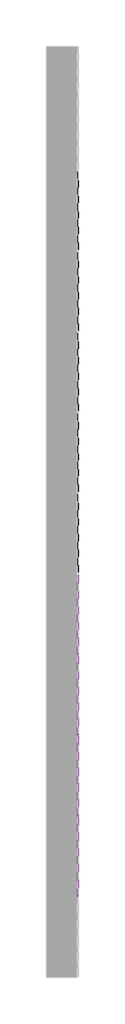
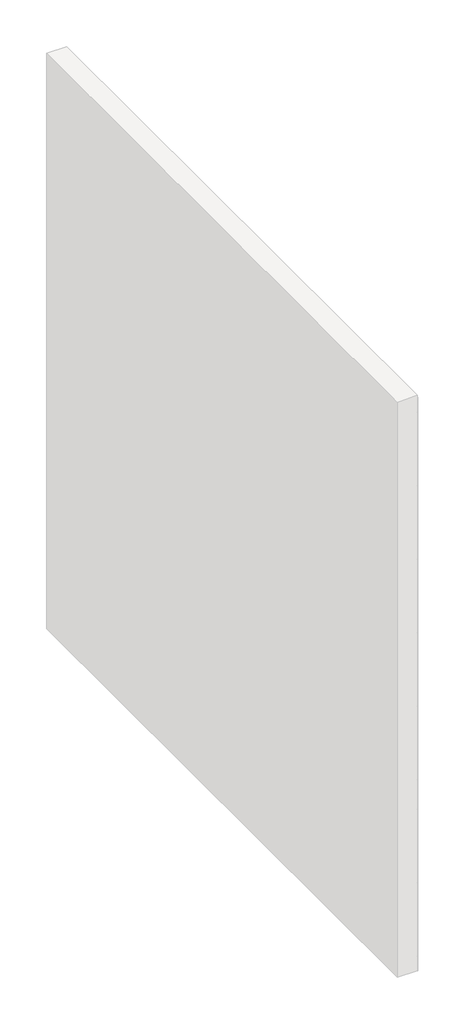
# One storey, part 40 of 45: 147 proxies.
"""IFC4 building model written with IfcOpenShell, lengths in millimetres."""

from ifc_helpers import new_model, si_unit, origin, place, context, project, spatial, transform, mapped, element, save
from components import generic_models_ab0f2c30

model = new_model("IFC4")

# Units and contexts
model_context = context("Model", 3, world=origin())
ifc_project = project(units=[si_unit("LENGTHUNIT", "METRE", prefix="MILLI")], contexts=[model_context])

# Site, building, storey
site = spatial("IfcSite", under=ifc_project)
building = spatial("IfcBuilding", under=site)
storey = spatial("IfcBuildingStorey", under=building, Name="PORTOBELLO - SHOWROOM", Elevation=0.0)

# Proxies
placement = place(None, origin())
generic_models_shape = generic_models_ab0f2c30(model_context)
element("IfcBuildingElementProxy", 1, Name="PBSHOP - HORIZONTES ZANZIBAR 6,5X23 : ZANZIBAR ARQUIPELAGO", ObjectType="PBSHOP - HORIZONTES ZANZIBAR 6,5X23 : ZANZIBAR ARQUIPELAGO", at=placement, inside=storey, context=model_context, shape_type="MappedRepresentation", body=[
    mapped(generic_models_shape, transform((66511.8826867, 21050.0864672, 34.5), x_axis=(0.0, 0.0, 1.0), y_axis=(0.0, -1.0, 0.0), z_axis=(1.0, 0.0, 0.0))),
])
element("IfcBuildingElementProxy", 2, Name="PBSHOP - HORIZONTES ZANZIBAR 6,5X23 : ZANZIBAR ARQUIPELAGO", ObjectType="PBSHOP - HORIZONTES ZANZIBAR 6,5X23 : ZANZIBAR ARQUIPELAGO", at=placement, inside=storey, context=model_context, shape_type="MappedRepresentation", body=[
    mapped(generic_models_shape, transform((66511.8826867, 21284.0864672, 34.5), x_axis=(0.0, 0.0, 1.0), y_axis=(0.0, -1.0, 0.0), z_axis=(1.0, 0.0, 0.0))),
])
element("IfcBuildingElementProxy", 3, Name="PBSHOP - HORIZONTES ZANZIBAR 6,5X23 : ZANZIBAR ARQUIPELAGO", ObjectType="PBSHOP - HORIZONTES ZANZIBAR 6,5X23 : ZANZIBAR ARQUIPELAGO", at=placement, inside=storey, context=model_context, shape_type="MappedRepresentation", body=[
    mapped(generic_models_shape, transform((66511.8826867, 21518.0864672, 34.5), x_axis=(0.0, 0.0, 1.0), y_axis=(0.0, -1.0, 0.0), z_axis=(1.0, 0.0, 0.0))),
])
element("IfcBuildingElementProxy", 4, Name="PBSHOP - HORIZONTES ZANZIBAR 6,5X23 : ZANZIBAR ARQUIPELAGO", ObjectType="PBSHOP - HORIZONTES ZANZIBAR 6,5X23 : ZANZIBAR ARQUIPELAGO", at=placement, inside=storey, context=model_context, shape_type="MappedRepresentation", body=[
    mapped(generic_models_shape, transform((66511.8826867, 21752.0864672, 34.5), x_axis=(0.0, 0.0, 1.0), y_axis=(0.0, -1.0, 0.0), z_axis=(1.0, 0.0, 0.0))),
])
element("IfcBuildingElementProxy", 5, Name="PBSHOP - HORIZONTES ZANZIBAR 6,5X23 : ZANZIBAR ARQUIPELAGO", ObjectType="PBSHOP - HORIZONTES ZANZIBAR 6,5X23 : ZANZIBAR ARQUIPELAGO", at=placement, inside=storey, context=model_context, shape_type="MappedRepresentation", body=[
    mapped(generic_models_shape, transform((66511.8826867, 21986.0864672, 34.5), x_axis=(0.0, 0.0, 1.0), y_axis=(0.0, -1.0, 0.0), z_axis=(1.0, 0.0, 0.0))),
])
element("IfcBuildingElementProxy", 6, Name="PBSHOP - HORIZONTES ZANZIBAR 6,5X23 : ZANZIBAR ARQUIPELAGO", ObjectType="PBSHOP - HORIZONTES ZANZIBAR 6,5X23 : ZANZIBAR ARQUIPELAGO", at=placement, inside=storey, context=model_context, shape_type="MappedRepresentation", body=[
    mapped(generic_models_shape, transform((66511.8826867, 21050.0864672, 103.5), x_axis=(0.0, 0.0, 1.0), y_axis=(0.0, -1.0, 0.0), z_axis=(1.0, 0.0, 0.0))),
])
element("IfcBuildingElementProxy", 7, Name="PBSHOP - HORIZONTES ZANZIBAR 6,5X23 : ZANZIBAR ARQUIPELAGO", ObjectType="PBSHOP - HORIZONTES ZANZIBAR 6,5X23 : ZANZIBAR ARQUIPELAGO", at=placement, inside=storey, context=model_context, shape_type="MappedRepresentation", body=[
    mapped(generic_models_shape, transform((66511.8826867, 21284.0864672, 103.5), x_axis=(0.0, 0.0, 1.0), y_axis=(0.0, -1.0, 0.0), z_axis=(1.0, 0.0, 0.0))),
])
element("IfcBuildingElementProxy", 8, Name="PBSHOP - HORIZONTES ZANZIBAR 6,5X23 : ZANZIBAR ARQUIPELAGO", ObjectType="PBSHOP - HORIZONTES ZANZIBAR 6,5X23 : ZANZIBAR ARQUIPELAGO", at=placement, inside=storey, context=model_context, shape_type="MappedRepresentation", body=[
    mapped(generic_models_shape, transform((66511.8826867, 21518.0864672, 103.5), x_axis=(0.0, 0.0, 1.0), y_axis=(0.0, -1.0, 0.0), z_axis=(1.0, 0.0, 0.0))),
])
element("IfcBuildingElementProxy", 9, Name="PBSHOP - HORIZONTES ZANZIBAR 6,5X23 : ZANZIBAR ARQUIPELAGO", ObjectType="PBSHOP - HORIZONTES ZANZIBAR 6,5X23 : ZANZIBAR ARQUIPELAGO", at=placement, inside=storey, context=model_context, shape_type="MappedRepresentation", body=[
    mapped(generic_models_shape, transform((66511.8826867, 21752.0864672, 103.5), x_axis=(0.0, 0.0, 1.0), y_axis=(0.0, -1.0, 0.0), z_axis=(1.0, 0.0, 0.0))),
])
element("IfcBuildingElementProxy", 10, Name="PBSHOP - HORIZONTES ZANZIBAR 6,5X23 : ZANZIBAR ARQUIPELAGO", ObjectType="PBSHOP - HORIZONTES ZANZIBAR 6,5X23 : ZANZIBAR ARQUIPELAGO", at=placement, inside=storey, context=model_context, shape_type="MappedRepresentation", body=[
    mapped(generic_models_shape, transform((66511.8826867, 21986.0864672, 103.5), x_axis=(0.0, 0.0, 1.0), y_axis=(0.0, -1.0, 0.0), z_axis=(1.0, 0.0, 0.0))),
])
element("IfcBuildingElementProxy", 11, Name="PBSHOP - HORIZONTES ZANZIBAR 6,5X23 : ZANZIBAR ARQUIPELAGO", ObjectType="PBSHOP - HORIZONTES ZANZIBAR 6,5X23 : ZANZIBAR ARQUIPELAGO", at=placement, inside=storey, context=model_context, shape_type="MappedRepresentation", body=[
    mapped(generic_models_shape, transform((66511.8826867, 21050.0864672, 172.5), x_axis=(0.0, 0.0, 1.0), y_axis=(0.0, -1.0, 0.0), z_axis=(1.0, 0.0, 0.0))),
])
element("IfcBuildingElementProxy", 12, Name="PBSHOP - HORIZONTES ZANZIBAR 6,5X23 : ZANZIBAR ARQUIPELAGO", ObjectType="PBSHOP - HORIZONTES ZANZIBAR 6,5X23 : ZANZIBAR ARQUIPELAGO", at=placement, inside=storey, context=model_context, shape_type="MappedRepresentation", body=[
    mapped(generic_models_shape, transform((66511.8826867, 21284.0864672, 172.5), x_axis=(0.0, 0.0, 1.0), y_axis=(0.0, -1.0, 0.0), z_axis=(1.0, 0.0, 0.0))),
])
element("IfcBuildingElementProxy", 13, Name="PBSHOP - HORIZONTES ZANZIBAR 6,5X23 : ZANZIBAR ARQUIPELAGO", ObjectType="PBSHOP - HORIZONTES ZANZIBAR 6,5X23 : ZANZIBAR ARQUIPELAGO", at=placement, inside=storey, context=model_context, shape_type="MappedRepresentation", body=[
    mapped(generic_models_shape, transform((66511.8826867, 21518.0864672, 172.5), x_axis=(0.0, 0.0, 1.0), y_axis=(0.0, -1.0, 0.0), z_axis=(1.0, 0.0, 0.0))),
])
element("IfcBuildingElementProxy", 14, Name="PBSHOP - HORIZONTES ZANZIBAR 6,5X23 : ZANZIBAR ARQUIPELAGO", ObjectType="PBSHOP - HORIZONTES ZANZIBAR 6,5X23 : ZANZIBAR ARQUIPELAGO", at=placement, inside=storey, context=model_context, shape_type="MappedRepresentation", body=[
    mapped(generic_models_shape, transform((66511.8826867, 21752.0864672, 172.5), x_axis=(0.0, 0.0, 1.0), y_axis=(0.0, -1.0, 0.0), z_axis=(1.0, 0.0, 0.0))),
])
element("IfcBuildingElementProxy", 15, Name="PBSHOP - HORIZONTES ZANZIBAR 6,5X23 : ZANZIBAR ARQUIPELAGO", ObjectType="PBSHOP - HORIZONTES ZANZIBAR 6,5X23 : ZANZIBAR ARQUIPELAGO", at=placement, inside=storey, context=model_context, shape_type="MappedRepresentation", body=[
    mapped(generic_models_shape, transform((66511.8826867, 21986.0864672, 172.5), x_axis=(0.0, 0.0, 1.0), y_axis=(0.0, -1.0, 0.0), z_axis=(1.0, 0.0, 0.0))),
])
element("IfcBuildingElementProxy", 16, Name="PBSHOP - HORIZONTES ZANZIBAR 6,5X23 : ZANZIBAR ARQUIPELAGO", ObjectType="PBSHOP - HORIZONTES ZANZIBAR 6,5X23 : ZANZIBAR ARQUIPELAGO", at=placement, inside=storey, context=model_context, shape_type="MappedRepresentation", body=[
    mapped(generic_models_shape, transform((66511.8826867, 21050.0864672, 241.5), x_axis=(0.0, 0.0, 1.0), y_axis=(0.0, -1.0, 0.0), z_axis=(1.0, 0.0, 0.0))),
])
element("IfcBuildingElementProxy", 17, Name="PBSHOP - HORIZONTES ZANZIBAR 6,5X23 : ZANZIBAR ARQUIPELAGO", ObjectType="PBSHOP - HORIZONTES ZANZIBAR 6,5X23 : ZANZIBAR ARQUIPELAGO", at=placement, inside=storey, context=model_context, shape_type="MappedRepresentation", body=[
    mapped(generic_models_shape, transform((66511.8826867, 21284.0864672, 241.5), x_axis=(0.0, 0.0, 1.0), y_axis=(0.0, -1.0, 0.0), z_axis=(1.0, 0.0, 0.0))),
])
element("IfcBuildingElementProxy", 18, Name="PBSHOP - HORIZONTES ZANZIBAR 6,5X23 : ZANZIBAR ARQUIPELAGO", ObjectType="PBSHOP - HORIZONTES ZANZIBAR 6,5X23 : ZANZIBAR ARQUIPELAGO", at=placement, inside=storey, context=model_context, shape_type="MappedRepresentation", body=[
    mapped(generic_models_shape, transform((66511.8826867, 21518.0864672, 241.5), x_axis=(0.0, 0.0, 1.0), y_axis=(0.0, -1.0, 0.0), z_axis=(1.0, 0.0, 0.0))),
])
element("IfcBuildingElementProxy", 19, Name="PBSHOP - HORIZONTES ZANZIBAR 6,5X23 : ZANZIBAR ARQUIPELAGO", ObjectType="PBSHOP - HORIZONTES ZANZIBAR 6,5X23 : ZANZIBAR ARQUIPELAGO", at=placement, inside=storey, context=model_context, shape_type="MappedRepresentation", body=[
    mapped(generic_models_shape, transform((66511.8826867, 21752.0864672, 241.5), x_axis=(0.0, 0.0, 1.0), y_axis=(0.0, -1.0, 0.0), z_axis=(1.0, 0.0, 0.0))),
])
element("IfcBuildingElementProxy", 20, Name="PBSHOP - HORIZONTES ZANZIBAR 6,5X23 : ZANZIBAR ARQUIPELAGO", ObjectType="PBSHOP - HORIZONTES ZANZIBAR 6,5X23 : ZANZIBAR ARQUIPELAGO", at=placement, inside=storey, context=model_context, shape_type="MappedRepresentation", body=[
    mapped(generic_models_shape, transform((66511.8826867, 21986.0864672, 241.5), x_axis=(0.0, 0.0, 1.0), y_axis=(0.0, -1.0, 0.0), z_axis=(1.0, 0.0, 0.0))),
])
element("IfcBuildingElementProxy", 21, Name="PBSHOP - HORIZONTES ZANZIBAR 6,5X23 : ZANZIBAR ARQUIPELAGO", ObjectType="PBSHOP - HORIZONTES ZANZIBAR 6,5X23 : ZANZIBAR ARQUIPELAGO", at=placement, inside=storey, context=model_context, shape_type="MappedRepresentation", body=[
    mapped(generic_models_shape, transform((66511.8826867, 21050.0864672, 310.5), x_axis=(0.0, 0.0, 1.0), y_axis=(0.0, -1.0, 0.0), z_axis=(1.0, 0.0, 0.0))),
])
element("IfcBuildingElementProxy", 22, Name="PBSHOP - HORIZONTES ZANZIBAR 6,5X23 : ZANZIBAR ARQUIPELAGO", ObjectType="PBSHOP - HORIZONTES ZANZIBAR 6,5X23 : ZANZIBAR ARQUIPELAGO", at=placement, inside=storey, context=model_context, shape_type="MappedRepresentation", body=[
    mapped(generic_models_shape, transform((66511.8826867, 21284.0864672, 310.5), x_axis=(0.0, 0.0, 1.0), y_axis=(0.0, -1.0, 0.0), z_axis=(1.0, 0.0, 0.0))),
])
element("IfcBuildingElementProxy", 23, Name="PBSHOP - HORIZONTES ZANZIBAR 6,5X23 : ZANZIBAR ARQUIPELAGO", ObjectType="PBSHOP - HORIZONTES ZANZIBAR 6,5X23 : ZANZIBAR ARQUIPELAGO", at=placement, inside=storey, context=model_context, shape_type="MappedRepresentation", body=[
    mapped(generic_models_shape, transform((66511.8826867, 21518.0864672, 310.5), x_axis=(0.0, 0.0, 1.0), y_axis=(0.0, -1.0, 0.0), z_axis=(1.0, 0.0, 0.0))),
])
element("IfcBuildingElementProxy", 24, Name="PBSHOP - HORIZONTES ZANZIBAR 6,5X23 : ZANZIBAR ARQUIPELAGO", ObjectType="PBSHOP - HORIZONTES ZANZIBAR 6,5X23 : ZANZIBAR ARQUIPELAGO", at=placement, inside=storey, context=model_context, shape_type="MappedRepresentation", body=[
    mapped(generic_models_shape, transform((66511.8826867, 21752.0864672, 310.5), x_axis=(0.0, 0.0, 1.0), y_axis=(0.0, -1.0, 0.0), z_axis=(1.0, 0.0, 0.0))),
])
element("IfcBuildingElementProxy", 25, Name="PBSHOP - HORIZONTES ZANZIBAR 6,5X23 : ZANZIBAR ARQUIPELAGO", ObjectType="PBSHOP - HORIZONTES ZANZIBAR 6,5X23 : ZANZIBAR ARQUIPELAGO", at=placement, inside=storey, context=model_context, shape_type="MappedRepresentation", body=[
    mapped(generic_models_shape, transform((66511.8826867, 21986.0864672, 310.5), x_axis=(0.0, 0.0, 1.0), y_axis=(0.0, -1.0, 0.0), z_axis=(1.0, 0.0, 0.0))),
])
element("IfcBuildingElementProxy", 26, Name="PBSHOP - HORIZONTES ZANZIBAR 6,5X23 : ZANZIBAR ARQUIPELAGO", ObjectType="PBSHOP - HORIZONTES ZANZIBAR 6,5X23 : ZANZIBAR ARQUIPELAGO", at=placement, inside=storey, context=model_context, shape_type="MappedRepresentation", body=[
    mapped(generic_models_shape, transform((66511.8826867, 21050.0864672, 379.5), x_axis=(0.0, 0.0, 1.0), y_axis=(0.0, -1.0, 0.0), z_axis=(1.0, 0.0, 0.0))),
])
element("IfcBuildingElementProxy", 27, Name="PBSHOP - HORIZONTES ZANZIBAR 6,5X23 : ZANZIBAR ARQUIPELAGO", ObjectType="PBSHOP - HORIZONTES ZANZIBAR 6,5X23 : ZANZIBAR ARQUIPELAGO", at=placement, inside=storey, context=model_context, shape_type="MappedRepresentation", body=[
    mapped(generic_models_shape, transform((66511.8826867, 21284.0864672, 379.5), x_axis=(0.0, 0.0, 1.0), y_axis=(0.0, -1.0, 0.0), z_axis=(1.0, 0.0, 0.0))),
])
element("IfcBuildingElementProxy", 28, Name="PBSHOP - HORIZONTES ZANZIBAR 6,5X23 : ZANZIBAR ARQUIPELAGO", ObjectType="PBSHOP - HORIZONTES ZANZIBAR 6,5X23 : ZANZIBAR ARQUIPELAGO", at=placement, inside=storey, context=model_context, shape_type="MappedRepresentation", body=[
    mapped(generic_models_shape, transform((66511.8826867, 21518.0864672, 379.5), x_axis=(0.0, 0.0, 1.0), y_axis=(0.0, -1.0, 0.0), z_axis=(1.0, 0.0, 0.0))),
])
element("IfcBuildingElementProxy", 29, Name="PBSHOP - HORIZONTES ZANZIBAR 6,5X23 : ZANZIBAR ARQUIPELAGO", ObjectType="PBSHOP - HORIZONTES ZANZIBAR 6,5X23 : ZANZIBAR ARQUIPELAGO", at=placement, inside=storey, context=model_context, shape_type="MappedRepresentation", body=[
    mapped(generic_models_shape, transform((66511.8826867, 21752.0864672, 379.5), x_axis=(0.0, 0.0, 1.0), y_axis=(0.0, -1.0, 0.0), z_axis=(1.0, 0.0, 0.0))),
])
element("IfcBuildingElementProxy", 30, Name="PBSHOP - HORIZONTES ZANZIBAR 6,5X23 : ZANZIBAR ARQUIPELAGO", ObjectType="PBSHOP - HORIZONTES ZANZIBAR 6,5X23 : ZANZIBAR ARQUIPELAGO", at=placement, inside=storey, context=model_context, shape_type="MappedRepresentation", body=[
    mapped(generic_models_shape, transform((66511.8826867, 21986.0864672, 379.5), x_axis=(0.0, 0.0, 1.0), y_axis=(0.0, -1.0, 0.0), z_axis=(1.0, 0.0, 0.0))),
])
element("IfcBuildingElementProxy", 31, Name="PBSHOP - HORIZONTES ZANZIBAR 6,5X23 : ZANZIBAR ARQUIPELAGO", ObjectType="PBSHOP - HORIZONTES ZANZIBAR 6,5X23 : ZANZIBAR ARQUIPELAGO", at=placement, inside=storey, context=model_context, shape_type="MappedRepresentation", body=[
    mapped(generic_models_shape, transform((66511.8826867, 21050.0864672, 448.5), x_axis=(0.0, 0.0, 1.0), y_axis=(0.0, -1.0, 0.0), z_axis=(1.0, 0.0, 0.0))),
])
element("IfcBuildingElementProxy", 32, Name="PBSHOP - HORIZONTES ZANZIBAR 6,5X23 : ZANZIBAR ARQUIPELAGO", ObjectType="PBSHOP - HORIZONTES ZANZIBAR 6,5X23 : ZANZIBAR ARQUIPELAGO", at=placement, inside=storey, context=model_context, shape_type="MappedRepresentation", body=[
    mapped(generic_models_shape, transform((66511.8826867, 21284.0864672, 448.5), x_axis=(0.0, 0.0, 1.0), y_axis=(0.0, -1.0, 0.0), z_axis=(1.0, 0.0, 0.0))),
])
element("IfcBuildingElementProxy", 33, Name="PBSHOP - HORIZONTES ZANZIBAR 6,5X23 : ZANZIBAR ARQUIPELAGO", ObjectType="PBSHOP - HORIZONTES ZANZIBAR 6,5X23 : ZANZIBAR ARQUIPELAGO", at=placement, inside=storey, context=model_context, shape_type="MappedRepresentation", body=[
    mapped(generic_models_shape, transform((66511.8826867, 21518.0864672, 448.5), x_axis=(0.0, 0.0, 1.0), y_axis=(0.0, -1.0, 0.0), z_axis=(1.0, 0.0, 0.0))),
])
element("IfcBuildingElementProxy", 34, Name="PBSHOP - HORIZONTES ZANZIBAR 6,5X23 : ZANZIBAR ARQUIPELAGO", ObjectType="PBSHOP - HORIZONTES ZANZIBAR 6,5X23 : ZANZIBAR ARQUIPELAGO", at=placement, inside=storey, context=model_context, shape_type="MappedRepresentation", body=[
    mapped(generic_models_shape, transform((66511.8826867, 21752.0864672, 448.5), x_axis=(0.0, 0.0, 1.0), y_axis=(0.0, -1.0, 0.0), z_axis=(1.0, 0.0, 0.0))),
])
element("IfcBuildingElementProxy", 35, Name="PBSHOP - HORIZONTES ZANZIBAR 6,5X23 : ZANZIBAR ARQUIPELAGO", ObjectType="PBSHOP - HORIZONTES ZANZIBAR 6,5X23 : ZANZIBAR ARQUIPELAGO", at=placement, inside=storey, context=model_context, shape_type="MappedRepresentation", body=[
    mapped(generic_models_shape, transform((66511.8826867, 21986.0864672, 448.5), x_axis=(0.0, 0.0, 1.0), y_axis=(0.0, -1.0, 0.0), z_axis=(1.0, 0.0, 0.0))),
])
element("IfcBuildingElementProxy", 36, Name="PBSHOP - HORIZONTES ZANZIBAR 6,5X23 : ZANZIBAR ARQUIPELAGO", ObjectType="PBSHOP - HORIZONTES ZANZIBAR 6,5X23 : ZANZIBAR ARQUIPELAGO", at=placement, inside=storey, context=model_context, shape_type="MappedRepresentation", body=[
    mapped(generic_models_shape, transform((66511.8826867, 21050.0864672, 517.5), x_axis=(0.0, 0.0, 1.0), y_axis=(0.0, -1.0, 0.0), z_axis=(1.0, 0.0, 0.0))),
])
element("IfcBuildingElementProxy", 37, Name="PBSHOP - HORIZONTES ZANZIBAR 6,5X23 : ZANZIBAR ARQUIPELAGO", ObjectType="PBSHOP - HORIZONTES ZANZIBAR 6,5X23 : ZANZIBAR ARQUIPELAGO", at=placement, inside=storey, context=model_context, shape_type="MappedRepresentation", body=[
    mapped(generic_models_shape, transform((66511.8826867, 21284.0864672, 517.5), x_axis=(0.0, 0.0, 1.0), y_axis=(0.0, -1.0, 0.0), z_axis=(1.0, 0.0, 0.0))),
])
element("IfcBuildingElementProxy", 38, Name="PBSHOP - HORIZONTES ZANZIBAR 6,5X23 : ZANZIBAR ARQUIPELAGO", ObjectType="PBSHOP - HORIZONTES ZANZIBAR 6,5X23 : ZANZIBAR ARQUIPELAGO", at=placement, inside=storey, context=model_context, shape_type="MappedRepresentation", body=[
    mapped(generic_models_shape, transform((66511.8826867, 21518.0864672, 517.5), x_axis=(0.0, 0.0, 1.0), y_axis=(0.0, -1.0, 0.0), z_axis=(1.0, 0.0, 0.0))),
])
element("IfcBuildingElementProxy", 39, Name="PBSHOP - HORIZONTES ZANZIBAR 6,5X23 : ZANZIBAR ARQUIPELAGO", ObjectType="PBSHOP - HORIZONTES ZANZIBAR 6,5X23 : ZANZIBAR ARQUIPELAGO", at=placement, inside=storey, context=model_context, shape_type="MappedRepresentation", body=[
    mapped(generic_models_shape, transform((66511.8826867, 21752.0864672, 517.5), x_axis=(0.0, 0.0, 1.0), y_axis=(0.0, -1.0, 0.0), z_axis=(1.0, 0.0, 0.0))),
])
element("IfcBuildingElementProxy", 40, Name="PBSHOP - HORIZONTES ZANZIBAR 6,5X23 : ZANZIBAR ARQUIPELAGO", ObjectType="PBSHOP - HORIZONTES ZANZIBAR 6,5X23 : ZANZIBAR ARQUIPELAGO", at=placement, inside=storey, context=model_context, shape_type="MappedRepresentation", body=[
    mapped(generic_models_shape, transform((66511.8826867, 21986.0864672, 517.5), x_axis=(0.0, 0.0, 1.0), y_axis=(0.0, -1.0, 0.0), z_axis=(1.0, 0.0, 0.0))),
])
element("IfcBuildingElementProxy", 41, Name="PBSHOP - HORIZONTES ZANZIBAR 6,5X23 : ZANZIBAR ARQUIPELAGO", ObjectType="PBSHOP - HORIZONTES ZANZIBAR 6,5X23 : ZANZIBAR ARQUIPELAGO", at=placement, inside=storey, context=model_context, shape_type="MappedRepresentation", body=[
    mapped(generic_models_shape, transform((66511.8826867, 21050.0864672, 586.5), x_axis=(0.0, 0.0, 1.0), y_axis=(0.0, -1.0, 0.0), z_axis=(1.0, 0.0, 0.0))),
])
element("IfcBuildingElementProxy", 42, Name="PBSHOP - HORIZONTES ZANZIBAR 6,5X23 : ZANZIBAR ARQUIPELAGO", ObjectType="PBSHOP - HORIZONTES ZANZIBAR 6,5X23 : ZANZIBAR ARQUIPELAGO", at=placement, inside=storey, context=model_context, shape_type="MappedRepresentation", body=[
    mapped(generic_models_shape, transform((66511.8826867, 21284.0864672, 586.5), x_axis=(0.0, 0.0, 1.0), y_axis=(0.0, -1.0, 0.0), z_axis=(1.0, 0.0, 0.0))),
])
element("IfcBuildingElementProxy", 43, Name="PBSHOP - HORIZONTES ZANZIBAR 6,5X23 : ZANZIBAR ARQUIPELAGO", ObjectType="PBSHOP - HORIZONTES ZANZIBAR 6,5X23 : ZANZIBAR ARQUIPELAGO", at=placement, inside=storey, context=model_context, shape_type="MappedRepresentation", body=[
    mapped(generic_models_shape, transform((66511.8826867, 21518.0864672, 586.5), x_axis=(0.0, 0.0, 1.0), y_axis=(0.0, -1.0, 0.0), z_axis=(1.0, 0.0, 0.0))),
])
element("IfcBuildingElementProxy", 44, Name="PBSHOP - HORIZONTES ZANZIBAR 6,5X23 : ZANZIBAR ARQUIPELAGO", ObjectType="PBSHOP - HORIZONTES ZANZIBAR 6,5X23 : ZANZIBAR ARQUIPELAGO", at=placement, inside=storey, context=model_context, shape_type="MappedRepresentation", body=[
    mapped(generic_models_shape, transform((66511.8826867, 21752.0864672, 586.5), x_axis=(0.0, 0.0, 1.0), y_axis=(0.0, -1.0, 0.0), z_axis=(1.0, 0.0, 0.0))),
])
element("IfcBuildingElementProxy", 45, Name="PBSHOP - HORIZONTES ZANZIBAR 6,5X23 : ZANZIBAR ARQUIPELAGO", ObjectType="PBSHOP - HORIZONTES ZANZIBAR 6,5X23 : ZANZIBAR ARQUIPELAGO", at=placement, inside=storey, context=model_context, shape_type="MappedRepresentation", body=[
    mapped(generic_models_shape, transform((66511.8826867, 21986.0864672, 586.5), x_axis=(0.0, 0.0, 1.0), y_axis=(0.0, -1.0, 0.0), z_axis=(1.0, 0.0, 0.0))),
])
element("IfcBuildingElementProxy", 46, Name="PBSHOP - HORIZONTES ZANZIBAR 6,5X23 : ZANZIBAR ARQUIPELAGO", ObjectType="PBSHOP - HORIZONTES ZANZIBAR 6,5X23 : ZANZIBAR ARQUIPELAGO", at=placement, inside=storey, context=model_context, shape_type="MappedRepresentation", body=[
    mapped(generic_models_shape, transform((66511.8826867, 21050.0864672, 655.5), x_axis=(0.0, 0.0, 1.0), y_axis=(0.0, -1.0, 0.0), z_axis=(1.0, 0.0, 0.0))),
])
element("IfcBuildingElementProxy", 47, Name="PBSHOP - HORIZONTES ZANZIBAR 6,5X23 : ZANZIBAR ARQUIPELAGO", ObjectType="PBSHOP - HORIZONTES ZANZIBAR 6,5X23 : ZANZIBAR ARQUIPELAGO", at=placement, inside=storey, context=model_context, shape_type="MappedRepresentation", body=[
    mapped(generic_models_shape, transform((66511.8826867, 21284.0864672, 655.5), x_axis=(0.0, 0.0, 1.0), y_axis=(0.0, -1.0, 0.0), z_axis=(1.0, 0.0, 0.0))),
])
element("IfcBuildingElementProxy", 48, Name="PBSHOP - HORIZONTES ZANZIBAR 6,5X23 : ZANZIBAR ARQUIPELAGO", ObjectType="PBSHOP - HORIZONTES ZANZIBAR 6,5X23 : ZANZIBAR ARQUIPELAGO", at=placement, inside=storey, context=model_context, shape_type="MappedRepresentation", body=[
    mapped(generic_models_shape, transform((66511.8826867, 21518.0864672, 655.5), x_axis=(0.0, 0.0, 1.0), y_axis=(0.0, -1.0, 0.0), z_axis=(1.0, 0.0, 0.0))),
])
element("IfcBuildingElementProxy", 49, Name="PBSHOP - HORIZONTES ZANZIBAR 6,5X23 : ZANZIBAR ARQUIPELAGO", ObjectType="PBSHOP - HORIZONTES ZANZIBAR 6,5X23 : ZANZIBAR ARQUIPELAGO", at=placement, inside=storey, context=model_context, shape_type="MappedRepresentation", body=[
    mapped(generic_models_shape, transform((66511.8826867, 21752.0864672, 655.5), x_axis=(0.0, 0.0, 1.0), y_axis=(0.0, -1.0, 0.0), z_axis=(1.0, 0.0, 0.0))),
])
element("IfcBuildingElementProxy", 50, Name="PBSHOP - HORIZONTES ZANZIBAR 6,5X23 : ZANZIBAR ARQUIPELAGO", ObjectType="PBSHOP - HORIZONTES ZANZIBAR 6,5X23 : ZANZIBAR ARQUIPELAGO", at=placement, inside=storey, context=model_context, shape_type="MappedRepresentation", body=[
    mapped(generic_models_shape, transform((66511.8826867, 21986.0864672, 655.5), x_axis=(0.0, 0.0, 1.0), y_axis=(0.0, -1.0, 0.0), z_axis=(1.0, 0.0, 0.0))),
])
element("IfcBuildingElementProxy", 51, Name="PBSHOP - HORIZONTES ZANZIBAR 6,5X23 : ZANZIBAR ARQUIPELAGO", ObjectType="PBSHOP - HORIZONTES ZANZIBAR 6,5X23 : ZANZIBAR ARQUIPELAGO", at=placement, inside=storey, context=model_context, shape_type="MappedRepresentation", body=[
    mapped(generic_models_shape, transform((66511.8826867, 21050.0864672, 724.5), x_axis=(0.0, 0.0, 1.0), y_axis=(0.0, -1.0, 0.0), z_axis=(1.0, 0.0, 0.0))),
])
element("IfcBuildingElementProxy", 52, Name="PBSHOP - HORIZONTES ZANZIBAR 6,5X23 : ZANZIBAR ARQUIPELAGO", ObjectType="PBSHOP - HORIZONTES ZANZIBAR 6,5X23 : ZANZIBAR ARQUIPELAGO", at=placement, inside=storey, context=model_context, shape_type="MappedRepresentation", body=[
    mapped(generic_models_shape, transform((66511.8826867, 21284.0864672, 724.5), x_axis=(0.0, 0.0, 1.0), y_axis=(0.0, -1.0, 0.0), z_axis=(1.0, 0.0, 0.0))),
])
element("IfcBuildingElementProxy", 53, Name="PBSHOP - HORIZONTES ZANZIBAR 6,5X23 : ZANZIBAR ARQUIPELAGO", ObjectType="PBSHOP - HORIZONTES ZANZIBAR 6,5X23 : ZANZIBAR ARQUIPELAGO", at=placement, inside=storey, context=model_context, shape_type="MappedRepresentation", body=[
    mapped(generic_models_shape, transform((66511.8826867, 21518.0864672, 724.5), x_axis=(0.0, 0.0, 1.0), y_axis=(0.0, -1.0, 0.0), z_axis=(1.0, 0.0, 0.0))),
])
element("IfcBuildingElementProxy", 54, Name="PBSHOP - HORIZONTES ZANZIBAR 6,5X23 : ZANZIBAR ARQUIPELAGO", ObjectType="PBSHOP - HORIZONTES ZANZIBAR 6,5X23 : ZANZIBAR ARQUIPELAGO", at=placement, inside=storey, context=model_context, shape_type="MappedRepresentation", body=[
    mapped(generic_models_shape, transform((66511.8826867, 21752.0864672, 724.5), x_axis=(0.0, 0.0, 1.0), y_axis=(0.0, -1.0, 0.0), z_axis=(1.0, 0.0, 0.0))),
])
element("IfcBuildingElementProxy", 55, Name="PBSHOP - HORIZONTES ZANZIBAR 6,5X23 : ZANZIBAR ARQUIPELAGO", ObjectType="PBSHOP - HORIZONTES ZANZIBAR 6,5X23 : ZANZIBAR ARQUIPELAGO", at=placement, inside=storey, context=model_context, shape_type="MappedRepresentation", body=[
    mapped(generic_models_shape, transform((66511.8826867, 21986.0864672, 724.5), x_axis=(0.0, 0.0, 1.0), y_axis=(0.0, -1.0, 0.0), z_axis=(1.0, 0.0, 0.0))),
])
element("IfcBuildingElementProxy", 56, Name="PBSHOP - HORIZONTES ZANZIBAR 6,5X23 : ZANZIBAR ARQUIPELAGO", ObjectType="PBSHOP - HORIZONTES ZANZIBAR 6,5X23 : ZANZIBAR ARQUIPELAGO", at=placement, inside=storey, context=model_context, shape_type="MappedRepresentation", body=[
    mapped(generic_models_shape, transform((66511.8826867, 21050.0864672, 793.5), x_axis=(0.0, 0.0, 1.0), y_axis=(0.0, -1.0, 0.0), z_axis=(1.0, 0.0, 0.0))),
])
element("IfcBuildingElementProxy", 57, Name="PBSHOP - HORIZONTES ZANZIBAR 6,5X23 : ZANZIBAR ARQUIPELAGO", ObjectType="PBSHOP - HORIZONTES ZANZIBAR 6,5X23 : ZANZIBAR ARQUIPELAGO", at=placement, inside=storey, context=model_context, shape_type="MappedRepresentation", body=[
    mapped(generic_models_shape, transform((66511.8826867, 21284.0864672, 793.5), x_axis=(0.0, 0.0, 1.0), y_axis=(0.0, -1.0, 0.0), z_axis=(1.0, 0.0, 0.0))),
])
element("IfcBuildingElementProxy", 58, Name="PBSHOP - HORIZONTES ZANZIBAR 6,5X23 : ZANZIBAR ARQUIPELAGO", ObjectType="PBSHOP - HORIZONTES ZANZIBAR 6,5X23 : ZANZIBAR ARQUIPELAGO", at=placement, inside=storey, context=model_context, shape_type="MappedRepresentation", body=[
    mapped(generic_models_shape, transform((66511.8826867, 21518.0864672, 793.5), x_axis=(0.0, 0.0, 1.0), y_axis=(0.0, -1.0, 0.0), z_axis=(1.0, 0.0, 0.0))),
])
element("IfcBuildingElementProxy", 59, Name="PBSHOP - HORIZONTES ZANZIBAR 6,5X23 : ZANZIBAR ARQUIPELAGO", ObjectType="PBSHOP - HORIZONTES ZANZIBAR 6,5X23 : ZANZIBAR ARQUIPELAGO", at=placement, inside=storey, context=model_context, shape_type="MappedRepresentation", body=[
    mapped(generic_models_shape, transform((66511.8826867, 21752.0864672, 793.5), x_axis=(0.0, 0.0, 1.0), y_axis=(0.0, -1.0, 0.0), z_axis=(1.0, 0.0, 0.0))),
])
element("IfcBuildingElementProxy", 60, Name="PBSHOP - HORIZONTES ZANZIBAR 6,5X23 : ZANZIBAR ARQUIPELAGO", ObjectType="PBSHOP - HORIZONTES ZANZIBAR 6,5X23 : ZANZIBAR ARQUIPELAGO", at=placement, inside=storey, context=model_context, shape_type="MappedRepresentation", body=[
    mapped(generic_models_shape, transform((66511.8826867, 21986.0864672, 793.5), x_axis=(0.0, 0.0, 1.0), y_axis=(0.0, -1.0, 0.0), z_axis=(1.0, 0.0, 0.0))),
])
element("IfcBuildingElementProxy", 61, Name="PBSHOP - HORIZONTES ZANZIBAR 6,5X23 : ZANZIBAR ARQUIPELAGO", ObjectType="PBSHOP - HORIZONTES ZANZIBAR 6,5X23 : ZANZIBAR ARQUIPELAGO", at=placement, inside=storey, context=model_context, shape_type="MappedRepresentation", body=[
    mapped(generic_models_shape, transform((66511.8826867, 21050.0864672, 862.5), x_axis=(0.0, 0.0, 1.0), y_axis=(0.0, -1.0, 0.0), z_axis=(1.0, 0.0, 0.0))),
])
element("IfcBuildingElementProxy", 62, Name="PBSHOP - HORIZONTES ZANZIBAR 6,5X23 : ZANZIBAR ARQUIPELAGO", ObjectType="PBSHOP - HORIZONTES ZANZIBAR 6,5X23 : ZANZIBAR ARQUIPELAGO", at=placement, inside=storey, context=model_context, shape_type="MappedRepresentation", body=[
    mapped(generic_models_shape, transform((66511.8826867, 21284.0864672, 862.5), x_axis=(0.0, 0.0, 1.0), y_axis=(0.0, -1.0, 0.0), z_axis=(1.0, 0.0, 0.0))),
])
element("IfcBuildingElementProxy", 63, Name="PBSHOP - HORIZONTES ZANZIBAR 6,5X23 : ZANZIBAR ARQUIPELAGO", ObjectType="PBSHOP - HORIZONTES ZANZIBAR 6,5X23 : ZANZIBAR ARQUIPELAGO", at=placement, inside=storey, context=model_context, shape_type="MappedRepresentation", body=[
    mapped(generic_models_shape, transform((66511.8826867, 21518.0864672, 862.5), x_axis=(0.0, 0.0, 1.0), y_axis=(0.0, -1.0, 0.0), z_axis=(1.0, 0.0, 0.0))),
])
element("IfcBuildingElementProxy", 64, Name="PBSHOP - HORIZONTES ZANZIBAR 6,5X23 : ZANZIBAR ARQUIPELAGO", ObjectType="PBSHOP - HORIZONTES ZANZIBAR 6,5X23 : ZANZIBAR ARQUIPELAGO", at=placement, inside=storey, context=model_context, shape_type="MappedRepresentation", body=[
    mapped(generic_models_shape, transform((66511.8826867, 21752.0864672, 862.5), x_axis=(0.0, 0.0, 1.0), y_axis=(0.0, -1.0, 0.0), z_axis=(1.0, 0.0, 0.0))),
])
element("IfcBuildingElementProxy", 65, Name="PBSHOP - HORIZONTES ZANZIBAR 6,5X23 : ZANZIBAR ARQUIPELAGO", ObjectType="PBSHOP - HORIZONTES ZANZIBAR 6,5X23 : ZANZIBAR ARQUIPELAGO", at=placement, inside=storey, context=model_context, shape_type="MappedRepresentation", body=[
    mapped(generic_models_shape, transform((66511.8826867, 21986.0864672, 862.5), x_axis=(0.0, 0.0, 1.0), y_axis=(0.0, -1.0, 0.0), z_axis=(1.0, 0.0, 0.0))),
])
element("IfcBuildingElementProxy", 66, Name="PBSHOP - HORIZONTES ZANZIBAR 6,5X23 : ZANZIBAR ARQUIPELAGO", ObjectType="PBSHOP - HORIZONTES ZANZIBAR 6,5X23 : ZANZIBAR ARQUIPELAGO", at=placement, inside=storey, context=model_context, shape_type="MappedRepresentation", body=[
    mapped(generic_models_shape, transform((66511.8826867, 21050.0864672, 931.5), x_axis=(0.0, 0.0, 1.0), y_axis=(0.0, -1.0, 0.0), z_axis=(1.0, 0.0, 0.0))),
])
element("IfcBuildingElementProxy", 67, Name="PBSHOP - HORIZONTES ZANZIBAR 6,5X23 : ZANZIBAR ARQUIPELAGO", ObjectType="PBSHOP - HORIZONTES ZANZIBAR 6,5X23 : ZANZIBAR ARQUIPELAGO", at=placement, inside=storey, context=model_context, shape_type="MappedRepresentation", body=[
    mapped(generic_models_shape, transform((66511.8826867, 21284.0864672, 931.5), x_axis=(0.0, 0.0, 1.0), y_axis=(0.0, -1.0, 0.0), z_axis=(1.0, 0.0, 0.0))),
])
element("IfcBuildingElementProxy", 68, Name="PBSHOP - HORIZONTES ZANZIBAR 6,5X23 : ZANZIBAR ARQUIPELAGO", ObjectType="PBSHOP - HORIZONTES ZANZIBAR 6,5X23 : ZANZIBAR ARQUIPELAGO", at=placement, inside=storey, context=model_context, shape_type="MappedRepresentation", body=[
    mapped(generic_models_shape, transform((66511.8826867, 21518.0864672, 931.5), x_axis=(0.0, 0.0, 1.0), y_axis=(0.0, -1.0, 0.0), z_axis=(1.0, 0.0, 0.0))),
])
element("IfcBuildingElementProxy", 69, Name="PBSHOP - HORIZONTES ZANZIBAR 6,5X23 : ZANZIBAR ARQUIPELAGO", ObjectType="PBSHOP - HORIZONTES ZANZIBAR 6,5X23 : ZANZIBAR ARQUIPELAGO", at=placement, inside=storey, context=model_context, shape_type="MappedRepresentation", body=[
    mapped(generic_models_shape, transform((66511.8826867, 21752.0864672, 931.5), x_axis=(0.0, 0.0, 1.0), y_axis=(0.0, -1.0, 0.0), z_axis=(1.0, 0.0, 0.0))),
])
element("IfcBuildingElementProxy", 70, Name="PBSHOP - HORIZONTES ZANZIBAR 6,5X23 : ZANZIBAR ARQUIPELAGO", ObjectType="PBSHOP - HORIZONTES ZANZIBAR 6,5X23 : ZANZIBAR ARQUIPELAGO", at=placement, inside=storey, context=model_context, shape_type="MappedRepresentation", body=[
    mapped(generic_models_shape, transform((66511.8826867, 21986.0864672, 931.5), x_axis=(0.0, 0.0, 1.0), y_axis=(0.0, -1.0, 0.0), z_axis=(1.0, 0.0, 0.0))),
])
element("IfcBuildingElementProxy", 71, Name="PBSHOP - HORIZONTES ZANZIBAR 6,5X23 : ZANZIBAR ARQUIPELAGO", ObjectType="PBSHOP - HORIZONTES ZANZIBAR 6,5X23 : ZANZIBAR ARQUIPELAGO", at=placement, inside=storey, context=model_context, shape_type="MappedRepresentation", body=[
    mapped(generic_models_shape, transform((66511.8826867, 21050.0864672, 1000.5), x_axis=(0.0, 0.0, 1.0), y_axis=(0.0, -1.0, 0.0), z_axis=(1.0, 0.0, 0.0))),
])
element("IfcBuildingElementProxy", 72, Name="PBSHOP - HORIZONTES ZANZIBAR 6,5X23 : ZANZIBAR ARQUIPELAGO", ObjectType="PBSHOP - HORIZONTES ZANZIBAR 6,5X23 : ZANZIBAR ARQUIPELAGO", at=placement, inside=storey, context=model_context, shape_type="MappedRepresentation", body=[
    mapped(generic_models_shape, transform((66511.8826867, 21284.0864672, 1000.5), x_axis=(0.0, 0.0, 1.0), y_axis=(0.0, -1.0, 0.0), z_axis=(1.0, 0.0, 0.0))),
])
element("IfcBuildingElementProxy", 73, Name="PBSHOP - HORIZONTES ZANZIBAR 6,5X23 : ZANZIBAR ARQUIPELAGO", ObjectType="PBSHOP - HORIZONTES ZANZIBAR 6,5X23 : ZANZIBAR ARQUIPELAGO", at=placement, inside=storey, context=model_context, shape_type="MappedRepresentation", body=[
    mapped(generic_models_shape, transform((66511.8826867, 21518.0864672, 1000.5), x_axis=(0.0, 0.0, 1.0), y_axis=(0.0, -1.0, 0.0), z_axis=(1.0, 0.0, 0.0))),
])
element("IfcBuildingElementProxy", 74, Name="PBSHOP - HORIZONTES ZANZIBAR 6,5X23 : ZANZIBAR ARQUIPELAGO", ObjectType="PBSHOP - HORIZONTES ZANZIBAR 6,5X23 : ZANZIBAR ARQUIPELAGO", at=placement, inside=storey, context=model_context, shape_type="MappedRepresentation", body=[
    mapped(generic_models_shape, transform((66511.8826867, 21752.0864672, 1000.5), x_axis=(0.0, 0.0, 1.0), y_axis=(0.0, -1.0, 0.0), z_axis=(1.0, 0.0, 0.0))),
])
element("IfcBuildingElementProxy", 75, Name="PBSHOP - HORIZONTES ZANZIBAR 6,5X23 : ZANZIBAR ARQUIPELAGO", ObjectType="PBSHOP - HORIZONTES ZANZIBAR 6,5X23 : ZANZIBAR ARQUIPELAGO", at=placement, inside=storey, context=model_context, shape_type="MappedRepresentation", body=[
    mapped(generic_models_shape, transform((66511.8826867, 21986.0864672, 1000.5), x_axis=(0.0, 0.0, 1.0), y_axis=(0.0, -1.0, 0.0), z_axis=(1.0, 0.0, 0.0))),
])
element("IfcBuildingElementProxy", 76, Name="PBSHOP - HORIZONTES ZANZIBAR 6,5X23 : ZANZIBAR ARQUIPELAGO", ObjectType="PBSHOP - HORIZONTES ZANZIBAR 6,5X23 : ZANZIBAR ARQUIPELAGO", at=placement, inside=storey, context=model_context, shape_type="MappedRepresentation", body=[
    mapped(generic_models_shape, transform((66511.8826867, 21050.0864672, 1069.5), x_axis=(0.0, 0.0, 1.0), y_axis=(0.0, -1.0, 0.0), z_axis=(1.0, 0.0, 0.0))),
])
element("IfcBuildingElementProxy", 77, Name="PBSHOP - HORIZONTES ZANZIBAR 6,5X23 : ZANZIBAR ARQUIPELAGO", ObjectType="PBSHOP - HORIZONTES ZANZIBAR 6,5X23 : ZANZIBAR ARQUIPELAGO", at=placement, inside=storey, context=model_context, shape_type="MappedRepresentation", body=[
    mapped(generic_models_shape, transform((66511.8826867, 21284.0864672, 1069.5), x_axis=(0.0, 0.0, 1.0), y_axis=(0.0, -1.0, 0.0), z_axis=(1.0, 0.0, 0.0))),
])
element("IfcBuildingElementProxy", 78, Name="PBSHOP - HORIZONTES ZANZIBAR 6,5X23 : ZANZIBAR ARQUIPELAGO", ObjectType="PBSHOP - HORIZONTES ZANZIBAR 6,5X23 : ZANZIBAR ARQUIPELAGO", at=placement, inside=storey, context=model_context, shape_type="MappedRepresentation", body=[
    mapped(generic_models_shape, transform((66511.8826867, 21518.0864672, 1069.5), x_axis=(0.0, 0.0, 1.0), y_axis=(0.0, -1.0, 0.0), z_axis=(1.0, 0.0, 0.0))),
])
element("IfcBuildingElementProxy", 79, Name="PBSHOP - HORIZONTES ZANZIBAR 6,5X23 : ZANZIBAR ARQUIPELAGO", ObjectType="PBSHOP - HORIZONTES ZANZIBAR 6,5X23 : ZANZIBAR ARQUIPELAGO", at=placement, inside=storey, context=model_context, shape_type="MappedRepresentation", body=[
    mapped(generic_models_shape, transform((66511.8826867, 21752.0864672, 1069.5), x_axis=(0.0, 0.0, 1.0), y_axis=(0.0, -1.0, 0.0), z_axis=(1.0, 0.0, 0.0))),
])
element("IfcBuildingElementProxy", 80, Name="PBSHOP - HORIZONTES ZANZIBAR 6,5X23 : ZANZIBAR ARQUIPELAGO", ObjectType="PBSHOP - HORIZONTES ZANZIBAR 6,5X23 : ZANZIBAR ARQUIPELAGO", at=placement, inside=storey, context=model_context, shape_type="MappedRepresentation", body=[
    mapped(generic_models_shape, transform((66511.8826867, 21986.0864672, 1069.5), x_axis=(0.0, 0.0, 1.0), y_axis=(0.0, -1.0, 0.0), z_axis=(1.0, 0.0, 0.0))),
])
element("IfcBuildingElementProxy", 81, Name="PBSHOP - HORIZONTES ZANZIBAR 6,5X23 : ZANZIBAR ARQUIPELAGO", ObjectType="PBSHOP - HORIZONTES ZANZIBAR 6,5X23 : ZANZIBAR ARQUIPELAGO", at=placement, inside=storey, context=model_context, shape_type="MappedRepresentation", body=[
    mapped(generic_models_shape, transform((66511.8826867, 21050.0864672, 1138.5), x_axis=(0.0, 0.0, 1.0), y_axis=(0.0, -1.0, 0.0), z_axis=(1.0, 0.0, 0.0))),
])
element("IfcBuildingElementProxy", 82, Name="PBSHOP - HORIZONTES ZANZIBAR 6,5X23 : ZANZIBAR ARQUIPELAGO", ObjectType="PBSHOP - HORIZONTES ZANZIBAR 6,5X23 : ZANZIBAR ARQUIPELAGO", at=placement, inside=storey, context=model_context, shape_type="MappedRepresentation", body=[
    mapped(generic_models_shape, transform((66511.8826867, 21284.0864672, 1138.5), x_axis=(0.0, 0.0, 1.0), y_axis=(0.0, -1.0, 0.0), z_axis=(1.0, 0.0, 0.0))),
])
element("IfcBuildingElementProxy", 83, Name="PBSHOP - HORIZONTES ZANZIBAR 6,5X23 : ZANZIBAR ARQUIPELAGO", ObjectType="PBSHOP - HORIZONTES ZANZIBAR 6,5X23 : ZANZIBAR ARQUIPELAGO", at=placement, inside=storey, context=model_context, shape_type="MappedRepresentation", body=[
    mapped(generic_models_shape, transform((66511.8826867, 21518.0864672, 1138.5), x_axis=(0.0, 0.0, 1.0), y_axis=(0.0, -1.0, 0.0), z_axis=(1.0, 0.0, 0.0))),
])
element("IfcBuildingElementProxy", 84, Name="PBSHOP - HORIZONTES ZANZIBAR 6,5X23 : ZANZIBAR ARQUIPELAGO", ObjectType="PBSHOP - HORIZONTES ZANZIBAR 6,5X23 : ZANZIBAR ARQUIPELAGO", at=placement, inside=storey, context=model_context, shape_type="MappedRepresentation", body=[
    mapped(generic_models_shape, transform((66511.8826867, 21752.0864672, 1138.5), x_axis=(0.0, 0.0, 1.0), y_axis=(0.0, -1.0, 0.0), z_axis=(1.0, 0.0, 0.0))),
])
element("IfcBuildingElementProxy", 85, Name="PBSHOP - HORIZONTES ZANZIBAR 6,5X23 : ZANZIBAR ARQUIPELAGO", ObjectType="PBSHOP - HORIZONTES ZANZIBAR 6,5X23 : ZANZIBAR ARQUIPELAGO", at=placement, inside=storey, context=model_context, shape_type="MappedRepresentation", body=[
    mapped(generic_models_shape, transform((66511.8826867, 21986.0864672, 1138.5), x_axis=(0.0, 0.0, 1.0), y_axis=(0.0, -1.0, 0.0), z_axis=(1.0, 0.0, 0.0))),
])
element("IfcBuildingElementProxy", 86, Name="PBSHOP - HORIZONTES ZANZIBAR 6,5X23 : ZANZIBAR ARQUIPELAGO", ObjectType="PBSHOP - HORIZONTES ZANZIBAR 6,5X23 : ZANZIBAR ARQUIPELAGO", at=placement, inside=storey, context=model_context, shape_type="MappedRepresentation", body=[
    mapped(generic_models_shape, transform((66511.8826867, 21050.0864672, 1207.5), x_axis=(0.0, 0.0, 1.0), y_axis=(0.0, -1.0, 0.0), z_axis=(1.0, 0.0, 0.0))),
])
element("IfcBuildingElementProxy", 87, Name="PBSHOP - HORIZONTES ZANZIBAR 6,5X23 : ZANZIBAR ARQUIPELAGO", ObjectType="PBSHOP - HORIZONTES ZANZIBAR 6,5X23 : ZANZIBAR ARQUIPELAGO", at=placement, inside=storey, context=model_context, shape_type="MappedRepresentation", body=[
    mapped(generic_models_shape, transform((66511.8826867, 21284.0864672, 1207.5), x_axis=(0.0, 0.0, 1.0), y_axis=(0.0, -1.0, 0.0), z_axis=(1.0, 0.0, 0.0))),
])
element("IfcBuildingElementProxy", 88, Name="PBSHOP - HORIZONTES ZANZIBAR 6,5X23 : ZANZIBAR ARQUIPELAGO", ObjectType="PBSHOP - HORIZONTES ZANZIBAR 6,5X23 : ZANZIBAR ARQUIPELAGO", at=placement, inside=storey, context=model_context, shape_type="MappedRepresentation", body=[
    mapped(generic_models_shape, transform((66511.8826867, 21518.0864672, 1207.5), x_axis=(0.0, 0.0, 1.0), y_axis=(0.0, -1.0, 0.0), z_axis=(1.0, 0.0, 0.0))),
])
element("IfcBuildingElementProxy", 89, Name="PBSHOP - HORIZONTES ZANZIBAR 6,5X23 : ZANZIBAR ARQUIPELAGO", ObjectType="PBSHOP - HORIZONTES ZANZIBAR 6,5X23 : ZANZIBAR ARQUIPELAGO", at=placement, inside=storey, context=model_context, shape_type="MappedRepresentation", body=[
    mapped(generic_models_shape, transform((66511.8826867, 21752.0864672, 1207.5), x_axis=(0.0, 0.0, 1.0), y_axis=(0.0, -1.0, 0.0), z_axis=(1.0, 0.0, 0.0))),
])
element("IfcBuildingElementProxy", 90, Name="PBSHOP - HORIZONTES ZANZIBAR 6,5X23 : ZANZIBAR ARQUIPELAGO", ObjectType="PBSHOP - HORIZONTES ZANZIBAR 6,5X23 : ZANZIBAR ARQUIPELAGO", at=placement, inside=storey, context=model_context, shape_type="MappedRepresentation", body=[
    mapped(generic_models_shape, transform((66511.8826867, 21986.0864672, 1207.5), x_axis=(0.0, 0.0, 1.0), y_axis=(0.0, -1.0, 0.0), z_axis=(1.0, 0.0, 0.0))),
])
element("IfcBuildingElementProxy", 91, Name="PBSHOP - HORIZONTES ZANZIBAR 6,5X23 : ZANZIBAR ARQUIPELAGO", ObjectType="PBSHOP - HORIZONTES ZANZIBAR 6,5X23 : ZANZIBAR ARQUIPELAGO", at=placement, inside=storey, context=model_context, shape_type="MappedRepresentation", body=[
    mapped(generic_models_shape, transform((66511.8826867, 21050.0864672, 1276.5), x_axis=(0.0, 0.0, 1.0), y_axis=(0.0, -1.0, 0.0), z_axis=(1.0, 0.0, 0.0))),
])
element("IfcBuildingElementProxy", 92, Name="PBSHOP - HORIZONTES ZANZIBAR 6,5X23 : ZANZIBAR ARQUIPELAGO", ObjectType="PBSHOP - HORIZONTES ZANZIBAR 6,5X23 : ZANZIBAR ARQUIPELAGO", at=placement, inside=storey, context=model_context, shape_type="MappedRepresentation", body=[
    mapped(generic_models_shape, transform((66511.8826867, 21284.0864672, 1276.5), x_axis=(0.0, 0.0, 1.0), y_axis=(0.0, -1.0, 0.0), z_axis=(1.0, 0.0, 0.0))),
])
element("IfcBuildingElementProxy", 93, Name="PBSHOP - HORIZONTES ZANZIBAR 6,5X23 : ZANZIBAR ARQUIPELAGO", ObjectType="PBSHOP - HORIZONTES ZANZIBAR 6,5X23 : ZANZIBAR ARQUIPELAGO", at=placement, inside=storey, context=model_context, shape_type="MappedRepresentation", body=[
    mapped(generic_models_shape, transform((66511.8826867, 21518.0864672, 1276.5), x_axis=(0.0, 0.0, 1.0), y_axis=(0.0, -1.0, 0.0), z_axis=(1.0, 0.0, 0.0))),
])
element("IfcBuildingElementProxy", 94, Name="PBSHOP - HORIZONTES ZANZIBAR 6,5X23 : ZANZIBAR ARQUIPELAGO", ObjectType="PBSHOP - HORIZONTES ZANZIBAR 6,5X23 : ZANZIBAR ARQUIPELAGO", at=placement, inside=storey, context=model_context, shape_type="MappedRepresentation", body=[
    mapped(generic_models_shape, transform((66511.8826867, 21752.0864672, 1276.5), x_axis=(0.0, 0.0, 1.0), y_axis=(0.0, -1.0, 0.0), z_axis=(1.0, 0.0, 0.0))),
])
element("IfcBuildingElementProxy", 95, Name="PBSHOP - HORIZONTES ZANZIBAR 6,5X23 : ZANZIBAR ARQUIPELAGO", ObjectType="PBSHOP - HORIZONTES ZANZIBAR 6,5X23 : ZANZIBAR ARQUIPELAGO", at=placement, inside=storey, context=model_context, shape_type="MappedRepresentation", body=[
    mapped(generic_models_shape, transform((66511.8826867, 21986.0864672, 1276.5), x_axis=(0.0, 0.0, 1.0), y_axis=(0.0, -1.0, 0.0), z_axis=(1.0, 0.0, 0.0))),
])
element("IfcBuildingElementProxy", 96, Name="PBSHOP - HORIZONTES ZANZIBAR 6,5X23 : ZANZIBAR ARQUIPELAGO", ObjectType="PBSHOP - HORIZONTES ZANZIBAR 6,5X23 : ZANZIBAR ARQUIPELAGO", at=placement, inside=storey, context=model_context, shape_type="MappedRepresentation", body=[
    mapped(generic_models_shape, transform((66511.8826867, 21050.0864672, 1345.5), x_axis=(0.0, 0.0, 1.0), y_axis=(0.0, -1.0, 0.0), z_axis=(1.0, 0.0, 0.0))),
])
element("IfcBuildingElementProxy", 97, Name="PBSHOP - HORIZONTES ZANZIBAR 6,5X23 : ZANZIBAR ARQUIPELAGO", ObjectType="PBSHOP - HORIZONTES ZANZIBAR 6,5X23 : ZANZIBAR ARQUIPELAGO", at=placement, inside=storey, context=model_context, shape_type="MappedRepresentation", body=[
    mapped(generic_models_shape, transform((66511.8826867, 21284.0864672, 1345.5), x_axis=(0.0, 0.0, 1.0), y_axis=(0.0, -1.0, 0.0), z_axis=(1.0, 0.0, 0.0))),
])
element("IfcBuildingElementProxy", 98, Name="PBSHOP - HORIZONTES ZANZIBAR 6,5X23 : ZANZIBAR ARQUIPELAGO", ObjectType="PBSHOP - HORIZONTES ZANZIBAR 6,5X23 : ZANZIBAR ARQUIPELAGO", at=placement, inside=storey, context=model_context, shape_type="MappedRepresentation", body=[
    mapped(generic_models_shape, transform((66511.8826867, 21518.0864672, 1345.5), x_axis=(0.0, 0.0, 1.0), y_axis=(0.0, -1.0, 0.0), z_axis=(1.0, 0.0, 0.0))),
])
element("IfcBuildingElementProxy", 99, Name="PBSHOP - HORIZONTES ZANZIBAR 6,5X23 : ZANZIBAR ARQUIPELAGO", ObjectType="PBSHOP - HORIZONTES ZANZIBAR 6,5X23 : ZANZIBAR ARQUIPELAGO", at=placement, inside=storey, context=model_context, shape_type="MappedRepresentation", body=[
    mapped(generic_models_shape, transform((66511.8826867, 21752.0864672, 1345.5), x_axis=(0.0, 0.0, 1.0), y_axis=(0.0, -1.0, 0.0), z_axis=(1.0, 0.0, 0.0))),
])
element("IfcBuildingElementProxy", 100, Name="PBSHOP - HORIZONTES ZANZIBAR 6,5X23 : ZANZIBAR ARQUIPELAGO", ObjectType="PBSHOP - HORIZONTES ZANZIBAR 6,5X23 : ZANZIBAR ARQUIPELAGO", at=placement, inside=storey, context=model_context, shape_type="MappedRepresentation", body=[
    mapped(generic_models_shape, transform((66511.8826867, 20114.0864672, 1897.5), x_axis=(0.0, 0.0, 1.0), y_axis=(0.0, -1.0, 0.0), z_axis=(1.0, 0.0, 0.0))),
])
element("IfcBuildingElementProxy", 101, Name="PBSHOP - HORIZONTES ZANZIBAR 6,5X23 : ZANZIBAR ARQUIPELAGO", ObjectType="PBSHOP - HORIZONTES ZANZIBAR 6,5X23 : ZANZIBAR ARQUIPELAGO", at=placement, inside=storey, context=model_context, shape_type="MappedRepresentation", body=[
    mapped(generic_models_shape, transform((66511.8826867, 20348.0864672, 1897.5), x_axis=(0.0, 0.0, 1.0), y_axis=(0.0, -1.0, 0.0), z_axis=(1.0, 0.0, 0.0))),
])
element("IfcBuildingElementProxy", 102, Name="PBSHOP - HORIZONTES ZANZIBAR 6,5X23 : ZANZIBAR ARQUIPELAGO", ObjectType="PBSHOP - HORIZONTES ZANZIBAR 6,5X23 : ZANZIBAR ARQUIPELAGO", at=placement, inside=storey, context=model_context, shape_type="MappedRepresentation", body=[
    mapped(generic_models_shape, transform((66511.8826867, 20582.0864672, 1897.5), x_axis=(0.0, 0.0, 1.0), y_axis=(0.0, -1.0, 0.0), z_axis=(1.0, 0.0, 0.0))),
])
element("IfcBuildingElementProxy", 103, Name="PBSHOP - HORIZONTES ZANZIBAR 6,5X23 : ZANZIBAR ARQUIPELAGO", ObjectType="PBSHOP - HORIZONTES ZANZIBAR 6,5X23 : ZANZIBAR ARQUIPELAGO", at=placement, inside=storey, context=model_context, shape_type="MappedRepresentation", body=[
    mapped(generic_models_shape, transform((66511.8826867, 20816.0864672, 1897.5), x_axis=(0.0, 0.0, 1.0), y_axis=(0.0, -1.0, 0.0), z_axis=(1.0, 0.0, 0.0))),
])
element("IfcBuildingElementProxy", 104, Name="PBSHOP - HORIZONTES ZANZIBAR 6,5X23 : ZANZIBAR ARQUIPELAGO", ObjectType="PBSHOP - HORIZONTES ZANZIBAR 6,5X23 : ZANZIBAR ARQUIPELAGO", at=placement, inside=storey, context=model_context, shape_type="MappedRepresentation", body=[
    mapped(generic_models_shape, transform((66511.8826867, 20114.0864672, 1966.5), x_axis=(0.0, 0.0, 1.0), y_axis=(0.0, -1.0, 0.0), z_axis=(1.0, 0.0, 0.0))),
])
element("IfcBuildingElementProxy", 105, Name="PBSHOP - HORIZONTES ZANZIBAR 6,5X23 : ZANZIBAR ARQUIPELAGO", ObjectType="PBSHOP - HORIZONTES ZANZIBAR 6,5X23 : ZANZIBAR ARQUIPELAGO", at=placement, inside=storey, context=model_context, shape_type="MappedRepresentation", body=[
    mapped(generic_models_shape, transform((66511.8826867, 20348.0864672, 1966.5), x_axis=(0.0, 0.0, 1.0), y_axis=(0.0, -1.0, 0.0), z_axis=(1.0, 0.0, 0.0))),
])
element("IfcBuildingElementProxy", 106, Name="PBSHOP - HORIZONTES ZANZIBAR 6,5X23 : ZANZIBAR ARQUIPELAGO", ObjectType="PBSHOP - HORIZONTES ZANZIBAR 6,5X23 : ZANZIBAR ARQUIPELAGO", at=placement, inside=storey, context=model_context, shape_type="MappedRepresentation", body=[
    mapped(generic_models_shape, transform((66511.8826867, 20582.0864672, 1966.5), x_axis=(0.0, 0.0, 1.0), y_axis=(0.0, -1.0, 0.0), z_axis=(1.0, 0.0, 0.0))),
])
element("IfcBuildingElementProxy", 107, Name="PBSHOP - HORIZONTES ZANZIBAR 6,5X23 : ZANZIBAR ARQUIPELAGO", ObjectType="PBSHOP - HORIZONTES ZANZIBAR 6,5X23 : ZANZIBAR ARQUIPELAGO", at=placement, inside=storey, context=model_context, shape_type="MappedRepresentation", body=[
    mapped(generic_models_shape, transform((66511.8826867, 20816.0864672, 1966.5), x_axis=(0.0, 0.0, 1.0), y_axis=(0.0, -1.0, 0.0), z_axis=(1.0, 0.0, 0.0))),
])
element("IfcBuildingElementProxy", 108, Name="PBSHOP - HORIZONTES ZANZIBAR 6,5X23 : ZANZIBAR ARQUIPELAGO", ObjectType="PBSHOP - HORIZONTES ZANZIBAR 6,5X23 : ZANZIBAR ARQUIPELAGO", at=placement, inside=storey, context=model_context, shape_type="MappedRepresentation", body=[
    mapped(generic_models_shape, transform((66511.8826867, 20114.0864672, 2035.5), x_axis=(0.0, 0.0, 1.0), y_axis=(0.0, -1.0, 0.0), z_axis=(1.0, 0.0, 0.0))),
])
element("IfcBuildingElementProxy", 109, Name="PBSHOP - HORIZONTES ZANZIBAR 6,5X23 : ZANZIBAR ARQUIPELAGO", ObjectType="PBSHOP - HORIZONTES ZANZIBAR 6,5X23 : ZANZIBAR ARQUIPELAGO", at=placement, inside=storey, context=model_context, shape_type="MappedRepresentation", body=[
    mapped(generic_models_shape, transform((66511.8826867, 20348.0864672, 2035.5), x_axis=(0.0, 0.0, 1.0), y_axis=(0.0, -1.0, 0.0), z_axis=(1.0, 0.0, 0.0))),
])
element("IfcBuildingElementProxy", 110, Name="PBSHOP - HORIZONTES ZANZIBAR 6,5X23 : ZANZIBAR ARQUIPELAGO", ObjectType="PBSHOP - HORIZONTES ZANZIBAR 6,5X23 : ZANZIBAR ARQUIPELAGO", at=placement, inside=storey, context=model_context, shape_type="MappedRepresentation", body=[
    mapped(generic_models_shape, transform((66511.8826867, 20582.0864672, 2035.5), x_axis=(0.0, 0.0, 1.0), y_axis=(0.0, -1.0, 0.0), z_axis=(1.0, 0.0, 0.0))),
])
element("IfcBuildingElementProxy", 111, Name="PBSHOP - HORIZONTES ZANZIBAR 6,5X23 : ZANZIBAR ARQUIPELAGO", ObjectType="PBSHOP - HORIZONTES ZANZIBAR 6,5X23 : ZANZIBAR ARQUIPELAGO", at=placement, inside=storey, context=model_context, shape_type="MappedRepresentation", body=[
    mapped(generic_models_shape, transform((66511.8826867, 20816.0864672, 2035.5), x_axis=(0.0, 0.0, 1.0), y_axis=(0.0, -1.0, 0.0), z_axis=(1.0, 0.0, 0.0))),
])
element("IfcBuildingElementProxy", 112, Name="PBSHOP - HORIZONTES ZANZIBAR 6,5X23 : ZANZIBAR ARQUIPELAGO", ObjectType="PBSHOP - HORIZONTES ZANZIBAR 6,5X23 : ZANZIBAR ARQUIPELAGO", at=placement, inside=storey, context=model_context, shape_type="MappedRepresentation", body=[
    mapped(generic_models_shape, transform((66511.8826867, 20114.0864672, 2104.5), x_axis=(0.0, 0.0, 1.0), y_axis=(0.0, -1.0, 0.0), z_axis=(1.0, 0.0, 0.0))),
])
element("IfcBuildingElementProxy", 113, Name="PBSHOP - HORIZONTES ZANZIBAR 6,5X23 : ZANZIBAR ARQUIPELAGO", ObjectType="PBSHOP - HORIZONTES ZANZIBAR 6,5X23 : ZANZIBAR ARQUIPELAGO", at=placement, inside=storey, context=model_context, shape_type="MappedRepresentation", body=[
    mapped(generic_models_shape, transform((66511.8826867, 20348.0864672, 2104.5), x_axis=(0.0, 0.0, 1.0), y_axis=(0.0, -1.0, 0.0), z_axis=(1.0, 0.0, 0.0))),
])
element("IfcBuildingElementProxy", 114, Name="PBSHOP - HORIZONTES ZANZIBAR 6,5X23 : ZANZIBAR ARQUIPELAGO", ObjectType="PBSHOP - HORIZONTES ZANZIBAR 6,5X23 : ZANZIBAR ARQUIPELAGO", at=placement, inside=storey, context=model_context, shape_type="MappedRepresentation", body=[
    mapped(generic_models_shape, transform((66511.8826867, 20582.0864672, 2104.5), x_axis=(0.0, 0.0, 1.0), y_axis=(0.0, -1.0, 0.0), z_axis=(1.0, 0.0, 0.0))),
])
element("IfcBuildingElementProxy", 115, Name="PBSHOP - HORIZONTES ZANZIBAR 6,5X23 : ZANZIBAR ARQUIPELAGO", ObjectType="PBSHOP - HORIZONTES ZANZIBAR 6,5X23 : ZANZIBAR ARQUIPELAGO", at=placement, inside=storey, context=model_context, shape_type="MappedRepresentation", body=[
    mapped(generic_models_shape, transform((66511.8826867, 20816.0864672, 2104.5), x_axis=(0.0, 0.0, 1.0), y_axis=(0.0, -1.0, 0.0), z_axis=(1.0, 0.0, 0.0))),
])
element("IfcBuildingElementProxy", 116, Name="PBSHOP - HORIZONTES ZANZIBAR 6,5X23 : ZANZIBAR ARQUIPELAGO", ObjectType="PBSHOP - HORIZONTES ZANZIBAR 6,5X23 : ZANZIBAR ARQUIPELAGO", at=placement, inside=storey, context=model_context, shape_type="MappedRepresentation", body=[
    mapped(generic_models_shape, transform((66511.8826867, 20114.0864672, 2173.5), x_axis=(0.0, 0.0, 1.0), y_axis=(0.0, -1.0, 0.0), z_axis=(1.0, 0.0, 0.0))),
])
element("IfcBuildingElementProxy", 117, Name="PBSHOP - HORIZONTES ZANZIBAR 6,5X23 : ZANZIBAR ARQUIPELAGO", ObjectType="PBSHOP - HORIZONTES ZANZIBAR 6,5X23 : ZANZIBAR ARQUIPELAGO", at=placement, inside=storey, context=model_context, shape_type="MappedRepresentation", body=[
    mapped(generic_models_shape, transform((66511.8826867, 20348.0864672, 2173.5), x_axis=(0.0, 0.0, 1.0), y_axis=(0.0, -1.0, 0.0), z_axis=(1.0, 0.0, 0.0))),
])
element("IfcBuildingElementProxy", 118, Name="PBSHOP - HORIZONTES ZANZIBAR 6,5X23 : ZANZIBAR ARQUIPELAGO", ObjectType="PBSHOP - HORIZONTES ZANZIBAR 6,5X23 : ZANZIBAR ARQUIPELAGO", at=placement, inside=storey, context=model_context, shape_type="MappedRepresentation", body=[
    mapped(generic_models_shape, transform((66511.8826867, 20582.0864672, 2173.5), x_axis=(0.0, 0.0, 1.0), y_axis=(0.0, -1.0, 0.0), z_axis=(1.0, 0.0, 0.0))),
])
element("IfcBuildingElementProxy", 119, Name="PBSHOP - HORIZONTES ZANZIBAR 6,5X23 : ZANZIBAR ARQUIPELAGO", ObjectType="PBSHOP - HORIZONTES ZANZIBAR 6,5X23 : ZANZIBAR ARQUIPELAGO", at=placement, inside=storey, context=model_context, shape_type="MappedRepresentation", body=[
    mapped(generic_models_shape, transform((66511.8826867, 20816.0864672, 2173.5), x_axis=(0.0, 0.0, 1.0), y_axis=(0.0, -1.0, 0.0), z_axis=(1.0, 0.0, 0.0))),
])
element("IfcBuildingElementProxy", 120, Name="PBSHOP - HORIZONTES ZANZIBAR 6,5X23 : ZANZIBAR ARQUIPELAGO", ObjectType="PBSHOP - HORIZONTES ZANZIBAR 6,5X23 : ZANZIBAR ARQUIPELAGO", at=placement, inside=storey, context=model_context, shape_type="MappedRepresentation", body=[
    mapped(generic_models_shape, transform((66511.8826867, 20114.0864672, 2242.5), x_axis=(0.0, 0.0, 1.0), y_axis=(0.0, -1.0, 0.0), z_axis=(1.0, 0.0, 0.0))),
])
element("IfcBuildingElementProxy", 121, Name="PBSHOP - HORIZONTES ZANZIBAR 6,5X23 : ZANZIBAR ARQUIPELAGO", ObjectType="PBSHOP - HORIZONTES ZANZIBAR 6,5X23 : ZANZIBAR ARQUIPELAGO", at=placement, inside=storey, context=model_context, shape_type="MappedRepresentation", body=[
    mapped(generic_models_shape, transform((66511.8826867, 20348.0864672, 2242.5), x_axis=(0.0, 0.0, 1.0), y_axis=(0.0, -1.0, 0.0), z_axis=(1.0, 0.0, 0.0))),
])
element("IfcBuildingElementProxy", 122, Name="PBSHOP - HORIZONTES ZANZIBAR 6,5X23 : ZANZIBAR ARQUIPELAGO", ObjectType="PBSHOP - HORIZONTES ZANZIBAR 6,5X23 : ZANZIBAR ARQUIPELAGO", at=placement, inside=storey, context=model_context, shape_type="MappedRepresentation", body=[
    mapped(generic_models_shape, transform((66511.8826867, 20582.0864672, 2242.5), x_axis=(0.0, 0.0, 1.0), y_axis=(0.0, -1.0, 0.0), z_axis=(1.0, 0.0, 0.0))),
])
element("IfcBuildingElementProxy", 123, Name="PBSHOP - HORIZONTES ZANZIBAR 6,5X23 : ZANZIBAR ARQUIPELAGO", ObjectType="PBSHOP - HORIZONTES ZANZIBAR 6,5X23 : ZANZIBAR ARQUIPELAGO", at=placement, inside=storey, context=model_context, shape_type="MappedRepresentation", body=[
    mapped(generic_models_shape, transform((66511.8826867, 20816.0864672, 2242.5), x_axis=(0.0, 0.0, 1.0), y_axis=(0.0, -1.0, 0.0), z_axis=(1.0, 0.0, 0.0))),
])
element("IfcBuildingElementProxy", 124, Name="PBSHOP - HORIZONTES ZANZIBAR 6,5X23 : ZANZIBAR ARQUIPELAGO", ObjectType="PBSHOP - HORIZONTES ZANZIBAR 6,5X23 : ZANZIBAR ARQUIPELAGO", at=placement, inside=storey, context=model_context, shape_type="MappedRepresentation", body=[
    mapped(generic_models_shape, transform((66511.8826867, 20114.0864672, 2311.5), x_axis=(0.0, 0.0, 1.0), y_axis=(0.0, -1.0, 0.0), z_axis=(1.0, 0.0, 0.0))),
])
element("IfcBuildingElementProxy", 125, Name="PBSHOP - HORIZONTES ZANZIBAR 6,5X23 : ZANZIBAR ARQUIPELAGO", ObjectType="PBSHOP - HORIZONTES ZANZIBAR 6,5X23 : ZANZIBAR ARQUIPELAGO", at=placement, inside=storey, context=model_context, shape_type="MappedRepresentation", body=[
    mapped(generic_models_shape, transform((66511.8826867, 20348.0864672, 2311.5), x_axis=(0.0, 0.0, 1.0), y_axis=(0.0, -1.0, 0.0), z_axis=(1.0, 0.0, 0.0))),
])
element("IfcBuildingElementProxy", 126, Name="PBSHOP - HORIZONTES ZANZIBAR 6,5X23 : ZANZIBAR ARQUIPELAGO", ObjectType="PBSHOP - HORIZONTES ZANZIBAR 6,5X23 : ZANZIBAR ARQUIPELAGO", at=placement, inside=storey, context=model_context, shape_type="MappedRepresentation", body=[
    mapped(generic_models_shape, transform((66511.8826867, 20582.0864672, 2311.5), x_axis=(0.0, 0.0, 1.0), y_axis=(0.0, -1.0, 0.0), z_axis=(1.0, 0.0, 0.0))),
])
element("IfcBuildingElementProxy", 127, Name="PBSHOP - HORIZONTES ZANZIBAR 6,5X23 : ZANZIBAR ARQUIPELAGO", ObjectType="PBSHOP - HORIZONTES ZANZIBAR 6,5X23 : ZANZIBAR ARQUIPELAGO", at=placement, inside=storey, context=model_context, shape_type="MappedRepresentation", body=[
    mapped(generic_models_shape, transform((66511.8826867, 20816.0864672, 2311.5), x_axis=(0.0, 0.0, 1.0), y_axis=(0.0, -1.0, 0.0), z_axis=(1.0, 0.0, 0.0))),
])
element("IfcBuildingElementProxy", 128, Name="PBSHOP - HORIZONTES ZANZIBAR 6,5X23 : ZANZIBAR ARQUIPELAGO", ObjectType="PBSHOP - HORIZONTES ZANZIBAR 6,5X23 : ZANZIBAR ARQUIPELAGO", at=placement, inside=storey, context=model_context, shape_type="MappedRepresentation", body=[
    mapped(generic_models_shape, transform((66511.8826867, 20114.0864672, 2380.5), x_axis=(0.0, 0.0, 1.0), y_axis=(0.0, -1.0, 0.0), z_axis=(1.0, 0.0, 0.0))),
])
element("IfcBuildingElementProxy", 129, Name="PBSHOP - HORIZONTES ZANZIBAR 6,5X23 : ZANZIBAR ARQUIPELAGO", ObjectType="PBSHOP - HORIZONTES ZANZIBAR 6,5X23 : ZANZIBAR ARQUIPELAGO", at=placement, inside=storey, context=model_context, shape_type="MappedRepresentation", body=[
    mapped(generic_models_shape, transform((66511.8826867, 20348.0864672, 2380.5), x_axis=(0.0, 0.0, 1.0), y_axis=(0.0, -1.0, 0.0), z_axis=(1.0, 0.0, 0.0))),
])
element("IfcBuildingElementProxy", 130, Name="PBSHOP - HORIZONTES ZANZIBAR 6,5X23 : ZANZIBAR ARQUIPELAGO", ObjectType="PBSHOP - HORIZONTES ZANZIBAR 6,5X23 : ZANZIBAR ARQUIPELAGO", at=placement, inside=storey, context=model_context, shape_type="MappedRepresentation", body=[
    mapped(generic_models_shape, transform((66511.8826867, 20582.0864672, 2380.5), x_axis=(0.0, 0.0, 1.0), y_axis=(0.0, -1.0, 0.0), z_axis=(1.0, 0.0, 0.0))),
])
element("IfcBuildingElementProxy", 131, Name="PBSHOP - HORIZONTES ZANZIBAR 6,5X23 : ZANZIBAR ARQUIPELAGO", ObjectType="PBSHOP - HORIZONTES ZANZIBAR 6,5X23 : ZANZIBAR ARQUIPELAGO", at=placement, inside=storey, context=model_context, shape_type="MappedRepresentation", body=[
    mapped(generic_models_shape, transform((66511.8826867, 20816.0864672, 2380.5), x_axis=(0.0, 0.0, 1.0), y_axis=(0.0, -1.0, 0.0), z_axis=(1.0, 0.0, 0.0))),
])
element("IfcBuildingElementProxy", 132, Name="PBSHOP - HORIZONTES ZANZIBAR 6,5X23 : ZANZIBAR ARQUIPELAGO", ObjectType="PBSHOP - HORIZONTES ZANZIBAR 6,5X23 : ZANZIBAR ARQUIPELAGO", at=placement, inside=storey, context=model_context, shape_type="MappedRepresentation", body=[
    mapped(generic_models_shape, transform((66511.8826867, 20114.0864672, 2449.5), x_axis=(0.0, 0.0, 1.0), y_axis=(0.0, -1.0, 0.0), z_axis=(1.0, 0.0, 0.0))),
])
element("IfcBuildingElementProxy", 133, Name="PBSHOP - HORIZONTES ZANZIBAR 6,5X23 : ZANZIBAR ARQUIPELAGO", ObjectType="PBSHOP - HORIZONTES ZANZIBAR 6,5X23 : ZANZIBAR ARQUIPELAGO", at=placement, inside=storey, context=model_context, shape_type="MappedRepresentation", body=[
    mapped(generic_models_shape, transform((66511.8826867, 20348.0864672, 2449.5), x_axis=(0.0, 0.0, 1.0), y_axis=(0.0, -1.0, 0.0), z_axis=(1.0, 0.0, 0.0))),
])
element("IfcBuildingElementProxy", 134, Name="PBSHOP - HORIZONTES ZANZIBAR 6,5X23 : ZANZIBAR ARQUIPELAGO", ObjectType="PBSHOP - HORIZONTES ZANZIBAR 6,5X23 : ZANZIBAR ARQUIPELAGO", at=placement, inside=storey, context=model_context, shape_type="MappedRepresentation", body=[
    mapped(generic_models_shape, transform((66511.8826867, 20582.0864672, 2449.5), x_axis=(0.0, 0.0, 1.0), y_axis=(0.0, -1.0, 0.0), z_axis=(1.0, 0.0, 0.0))),
])
element("IfcBuildingElementProxy", 135, Name="PBSHOP - HORIZONTES ZANZIBAR 6,5X23 : ZANZIBAR ARQUIPELAGO", ObjectType="PBSHOP - HORIZONTES ZANZIBAR 6,5X23 : ZANZIBAR ARQUIPELAGO", at=placement, inside=storey, context=model_context, shape_type="MappedRepresentation", body=[
    mapped(generic_models_shape, transform((66511.8826867, 20816.0864672, 2449.5), x_axis=(0.0, 0.0, 1.0), y_axis=(0.0, -1.0, 0.0), z_axis=(1.0, 0.0, 0.0))),
])
element("IfcBuildingElementProxy", 136, Name="PBSHOP - HORIZONTES ZANZIBAR 6,5X23 : ZANZIBAR ARQUIPELAGO", ObjectType="PBSHOP - HORIZONTES ZANZIBAR 6,5X23 : ZANZIBAR ARQUIPELAGO", at=placement, inside=storey, context=model_context, shape_type="MappedRepresentation", body=[
    mapped(generic_models_shape, transform((66511.8826867, 20114.0864672, 2518.5), x_axis=(0.0, 0.0, 1.0), y_axis=(0.0, -1.0, 0.0), z_axis=(1.0, 0.0, 0.0))),
])
element("IfcBuildingElementProxy", 137, Name="PBSHOP - HORIZONTES ZANZIBAR 6,5X23 : ZANZIBAR ARQUIPELAGO", ObjectType="PBSHOP - HORIZONTES ZANZIBAR 6,5X23 : ZANZIBAR ARQUIPELAGO", at=placement, inside=storey, context=model_context, shape_type="MappedRepresentation", body=[
    mapped(generic_models_shape, transform((66511.8826867, 20348.0864672, 2518.5), x_axis=(0.0, 0.0, 1.0), y_axis=(0.0, -1.0, 0.0), z_axis=(1.0, 0.0, 0.0))),
])
element("IfcBuildingElementProxy", 138, Name="PBSHOP - HORIZONTES ZANZIBAR 6,5X23 : ZANZIBAR ARQUIPELAGO", ObjectType="PBSHOP - HORIZONTES ZANZIBAR 6,5X23 : ZANZIBAR ARQUIPELAGO", at=placement, inside=storey, context=model_context, shape_type="MappedRepresentation", body=[
    mapped(generic_models_shape, transform((66511.8826867, 20582.0864672, 2518.5), x_axis=(0.0, 0.0, 1.0), y_axis=(0.0, -1.0, 0.0), z_axis=(1.0, 0.0, 0.0))),
])
element("IfcBuildingElementProxy", 139, Name="PBSHOP - HORIZONTES ZANZIBAR 6,5X23 : ZANZIBAR ARQUIPELAGO", ObjectType="PBSHOP - HORIZONTES ZANZIBAR 6,5X23 : ZANZIBAR ARQUIPELAGO", at=placement, inside=storey, context=model_context, shape_type="MappedRepresentation", body=[
    mapped(generic_models_shape, transform((66511.8826867, 20816.0864672, 2518.5), x_axis=(0.0, 0.0, 1.0), y_axis=(0.0, -1.0, 0.0), z_axis=(1.0, 0.0, 0.0))),
])
element("IfcBuildingElementProxy", 140, Name="PBSHOP - HORIZONTES ZANZIBAR 6,5X23 : ZANZIBAR ARQUIPELAGO", ObjectType="PBSHOP - HORIZONTES ZANZIBAR 6,5X23 : ZANZIBAR ARQUIPELAGO", at=placement, inside=storey, context=model_context, shape_type="MappedRepresentation", body=[
    mapped(generic_models_shape, transform((66511.8826867, 20114.0864672, 2587.5), x_axis=(0.0, 0.0, 1.0), y_axis=(0.0, -1.0, 0.0), z_axis=(1.0, 0.0, 0.0))),
])
element("IfcBuildingElementProxy", 141, Name="PBSHOP - HORIZONTES ZANZIBAR 6,5X23 : ZANZIBAR ARQUIPELAGO", ObjectType="PBSHOP - HORIZONTES ZANZIBAR 6,5X23 : ZANZIBAR ARQUIPELAGO", at=placement, inside=storey, context=model_context, shape_type="MappedRepresentation", body=[
    mapped(generic_models_shape, transform((66511.8826867, 20348.0864672, 2587.5), x_axis=(0.0, 0.0, 1.0), y_axis=(0.0, -1.0, 0.0), z_axis=(1.0, 0.0, 0.0))),
])
element("IfcBuildingElementProxy", 142, Name="PBSHOP - HORIZONTES ZANZIBAR 6,5X23 : ZANZIBAR ARQUIPELAGO", ObjectType="PBSHOP - HORIZONTES ZANZIBAR 6,5X23 : ZANZIBAR ARQUIPELAGO", at=placement, inside=storey, context=model_context, shape_type="MappedRepresentation", body=[
    mapped(generic_models_shape, transform((66511.8826867, 20582.0864672, 2587.5), x_axis=(0.0, 0.0, 1.0), y_axis=(0.0, -1.0, 0.0), z_axis=(1.0, 0.0, 0.0))),
])
element("IfcBuildingElementProxy", 143, Name="PBSHOP - HORIZONTES ZANZIBAR 6,5X23 : ZANZIBAR ARQUIPELAGO", ObjectType="PBSHOP - HORIZONTES ZANZIBAR 6,5X23 : ZANZIBAR ARQUIPELAGO", at=placement, inside=storey, context=model_context, shape_type="MappedRepresentation", body=[
    mapped(generic_models_shape, transform((66511.8826867, 20816.0864672, 2587.5), x_axis=(0.0, 0.0, 1.0), y_axis=(0.0, -1.0, 0.0), z_axis=(1.0, 0.0, 0.0))),
])
element("IfcBuildingElementProxy", 144, Name="PBSHOP - HORIZONTES ZANZIBAR 6,5X23 : ZANZIBAR ARQUIPELAGO", ObjectType="PBSHOP - HORIZONTES ZANZIBAR 6,5X23 : ZANZIBAR ARQUIPELAGO", at=placement, inside=storey, context=model_context, shape_type="MappedRepresentation", body=[
    mapped(generic_models_shape, transform((66511.8826867, 20114.0864672, 2656.5), x_axis=(0.0, 0.0, 1.0), y_axis=(0.0, -1.0, 0.0), z_axis=(1.0, 0.0, 0.0))),
])
element("IfcBuildingElementProxy", 145, Name="PBSHOP - HORIZONTES ZANZIBAR 6,5X23 : ZANZIBAR ARQUIPELAGO", ObjectType="PBSHOP - HORIZONTES ZANZIBAR 6,5X23 : ZANZIBAR ARQUIPELAGO", at=placement, inside=storey, context=model_context, shape_type="MappedRepresentation", body=[
    mapped(generic_models_shape, transform((66511.8826867, 20348.0864672, 2656.5), x_axis=(0.0, 0.0, 1.0), y_axis=(0.0, -1.0, 0.0), z_axis=(1.0, 0.0, 0.0))),
])
element("IfcBuildingElementProxy", 146, Name="PBSHOP - HORIZONTES ZANZIBAR 6,5X23 : ZANZIBAR ARQUIPELAGO", ObjectType="PBSHOP - HORIZONTES ZANZIBAR 6,5X23 : ZANZIBAR ARQUIPELAGO", at=placement, inside=storey, context=model_context, shape_type="MappedRepresentation", body=[
    mapped(generic_models_shape, transform((66511.8826867, 20582.0864672, 2656.5), x_axis=(0.0, 0.0, 1.0), y_axis=(0.0, -1.0, 0.0), z_axis=(1.0, 0.0, 0.0))),
])
element("IfcBuildingElementProxy", 147, Name="PBSHOP - HORIZONTES ZANZIBAR 6,5X23 : ZANZIBAR ARQUIPELAGO", ObjectType="PBSHOP - HORIZONTES ZANZIBAR 6,5X23 : ZANZIBAR ARQUIPELAGO", at=placement, inside=storey, context=model_context, shape_type="MappedRepresentation", body=[
    mapped(generic_models_shape, transform((66511.8826867, 20816.0864672, 2656.5), x_axis=(0.0, 0.0, 1.0), y_axis=(0.0, -1.0, 0.0), z_axis=(1.0, 0.0, 0.0))),
])

save(model, "model.ifc")
